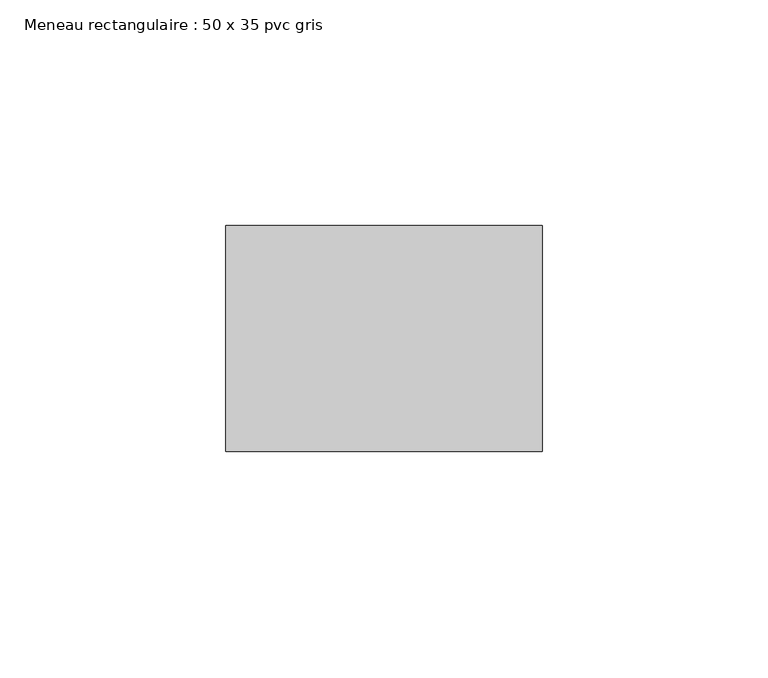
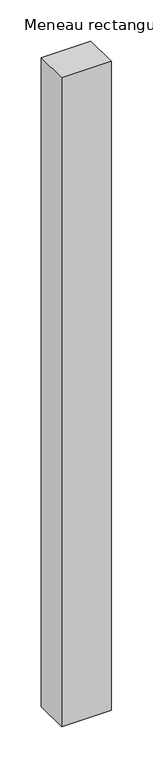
"""IFC4 building model written with IfcOpenShell, lengths in millimetres: member geometry, Meneau rectangulaire : 50 x 35 pvc gris."""

from ifc_helpers import new_model, si_unit, frame, origin, place, context, project, spatial, polyline, outline, extrude, source, transform, mapped, element, save


def meneau_rectangulaire_50_x_35_pvc_gris_57aaabf9(model_context):
    return source(origin(), model_context, "Body", "SweptSolid", [
        extrude(outline(polyline([(35.0, 0.0), (35.0, -50.0), (-35.0, -50.0), (-35.0, 0.0), (35.0, 0.0)])), frame((0.0, 0.0, -964.0), z_axis=(0.0, 0.0, 1.0), x_axis=(1.0, 0.0, 0.0)), (0.0, 0.0, 1.0), 964.0),
    ])


if __name__ == "__main__":
    model = new_model("IFC4")
    model_context = context("Model", 3, world=origin())
    ifc_project = project(units=[si_unit("LENGTHUNIT", "METRE", prefix="MILLI")], contexts=[model_context])
    site = spatial("IfcSite", under=ifc_project)
    building = spatial("IfcBuilding", under=site)
    placement = place(None, origin())
    meneau_rectangulaire_50_x_35_pvc_gris_shape = meneau_rectangulaire_50_x_35_pvc_gris_57aaabf9(model_context)
    element("IfcMember", 1, ObjectType="Meneau rectangulaire : 50 x 35 pvc gris", at=placement, inside=building, context=model_context, shape_type="MappedRepresentation", body=[
        mapped(meneau_rectangulaire_50_x_35_pvc_gris_shape, transform((0.0, 0.0, 0.0), x_axis=(1.0, 0.0, 0.0), y_axis=(0.0, 1.0, 0.0), z_axis=(0.0, 0.0, 1.0))),
    ])
    save(model, "model.ifc")
